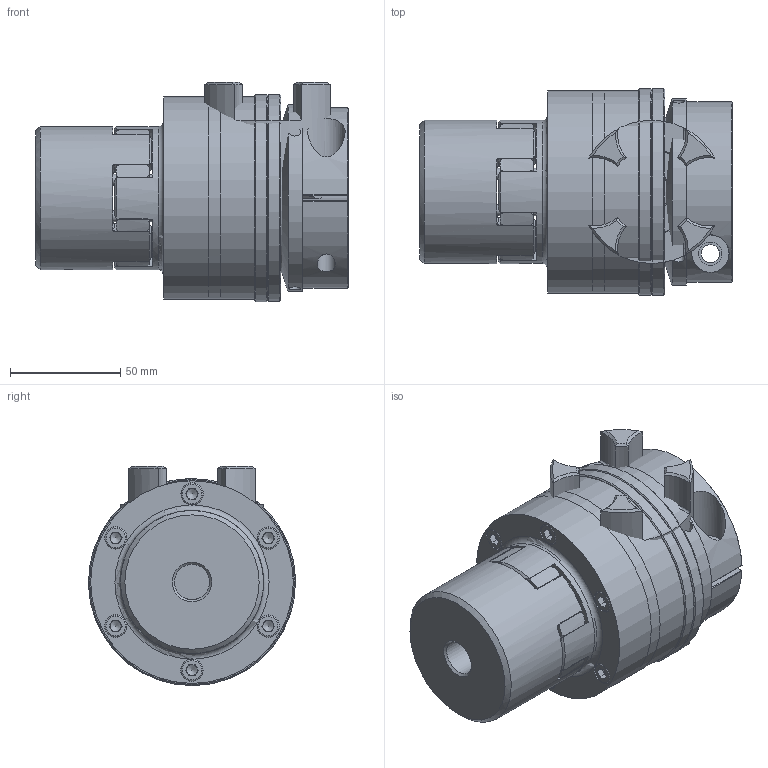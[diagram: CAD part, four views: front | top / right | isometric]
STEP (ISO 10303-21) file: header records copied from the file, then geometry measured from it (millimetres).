
FILE_DESCRIPTION( ( 'Unknown' ), '1' );
FILE_NAME( 'K:/Daten/homepage/cad - homepage/KBK-E-PK/KBK EPK-28.stp', 'Unknown', ( 'Unknown' ), ( 'Unknown' ), 'XStep 1.0', 'Unknown', ' ' );
FILE_SCHEMA( ( 'automotive_design' ) );
Length unit declared in the file: millimetre
Products named in the file (16): Assem1; Assem2; Assem3; ball_bearing_-_6008_0_01; ball_bearing_-_6008_0_02; ball_bearing_-_6008_0_03; Stellring 80; Druckring 80; Flansch 80; a_40; Zahnkranz EK28_Standard; KBE 1 - 28_Nabe; KBK L-K-80 Grundkörper; Klemmnabe 80; Elastomerflansch 28; Socket Head Cap Screw_DIN_DIN 912 M6 x 25 --- 25N
Bounding box: 142 x 94 x 99.5 mm (x, y, z)
Volume: 1215483.4 mm3; surface area: 341881.1 mm2
Topology: 34 solids, 34 shells, 868 faces, 2055 edges, 1316 vertices
Faces by surface type: cylinder 298, plane 297, cone 212, torus 61
Full cylindrical faces by diameter (mm): 2.5 x4, 3.242 x6, 4.917 x12, 5 x26, 5.2 x6, 6 x7, 6.2 x12, 8.376 x2, 10 x7, 10.2 x12, 10.5 x2, 16 x2, 17 x2, 19 x2, 30 x6, 37.5 x2, 40 x7, 42 x2, 49.2 x6, 59.1 x6, 61 x2, 62 x4, 65 x4, 68 x7, 70 x2, 85 x2, 87 x2, 90 x4, 92 x2, 94 x2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
Entity records: 11219 total; most frequent: CARTESIAN_POINT 2833, DIRECTION 1790, ORIENTED_EDGE 1442, AXIS2_PLACEMENT_3D 825, EDGE_CURVE 721, EDGE_LOOP 566, VERTEX_POINT 524, FACE_OUTER_BOUND 458
